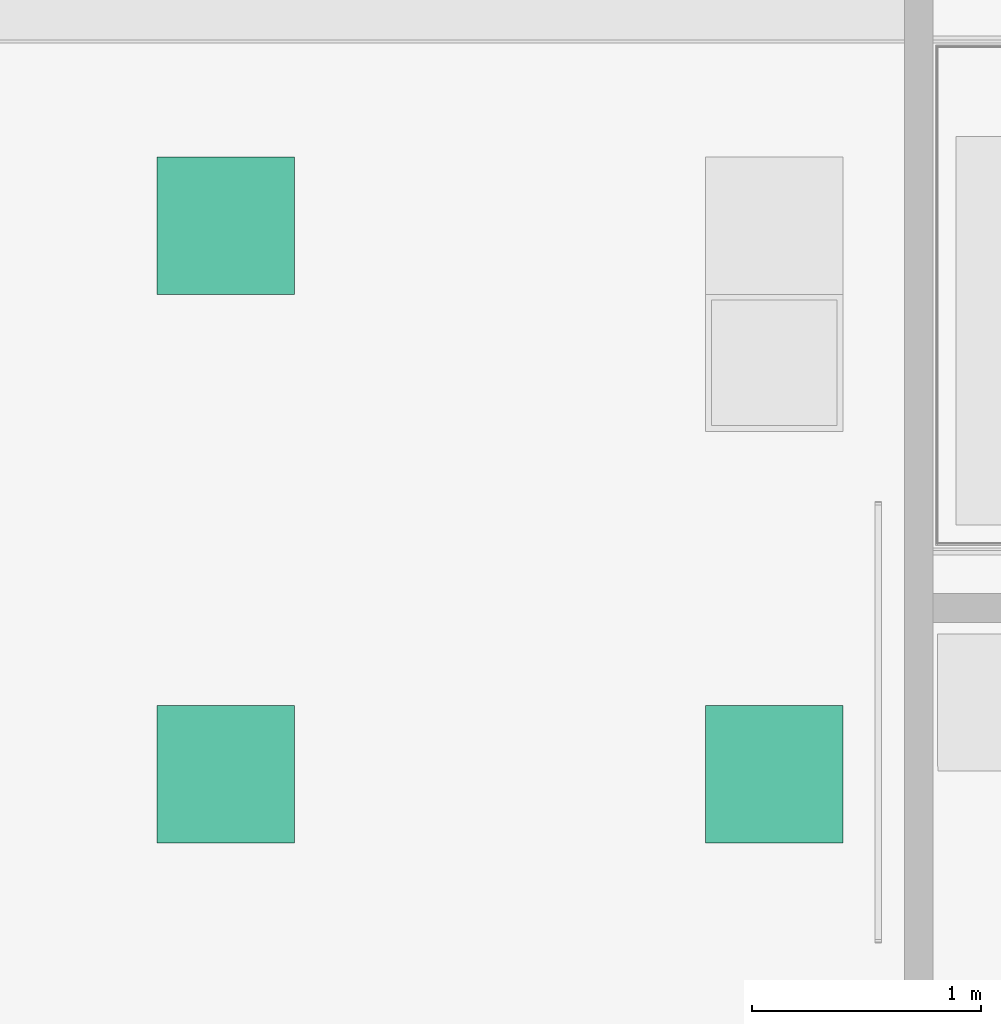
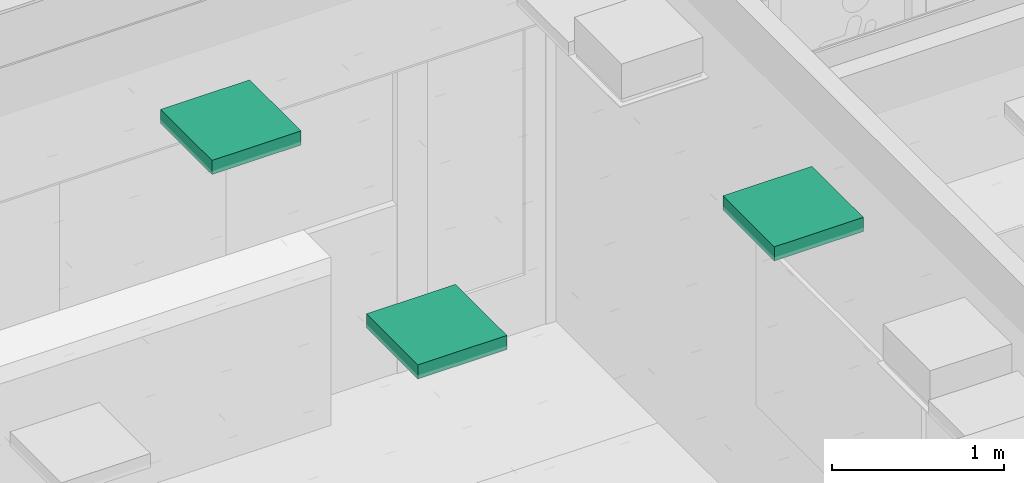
# One storey, part 201 of 347: 3 flow terminals.
"""IFC2X3 building model written with IfcOpenShell, lengths in millimetres."""

from ifc_helpers import new_model, entity, si_unit, converted_unit, derived_unit, money_unit, direction, frame, origin_with_axes, place, context, subcontext, project, spatial, open_shell, faceted_brep, surface_model, source, transform, mapped, type_object, type_shapes, element, save


model = new_model("IFC2X3")

# Units and contexts
model_context = context("Model", 3, precision=0.01, world=origin_with_axes(), true_north=direction((0.0, 1.0)))
plan_context = context("Plan", 3, precision=0.01, world=origin_with_axes(), true_north=direction((0.0, 1.0)))
body_context = subcontext(model_context, "Body", "Model", "MODEL_VIEW")
ifc_project = project(units=[si_unit("LENGTHUNIT", "METRE", prefix="MILLI"), si_unit("AREAUNIT", "SQUARE_METRE"), si_unit("VOLUMEUNIT", "CUBIC_METRE"), converted_unit("PLANEANGLEUNIT", "DEGREE", entity("IfcPlaneAngleMeasure", 0.0174532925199), si_unit("PLANEANGLEUNIT", "RADIAN"), dimensions=[0, 0, 0, 0, 0, 0, 0]), money_unit("EUR"), converted_unit("TIMEUNIT", "Year", entity("IfcTimeMeasure", 31556926.0), si_unit("TIMEUNIT", "SECOND"), dimensions=[0, 0, 1, 0, 0, 0, 0]), si_unit("MASSUNIT", "GRAM", prefix="KILO"), si_unit("THERMODYNAMICTEMPERATUREUNIT", "DEGREE_CELSIUS"), si_unit("LUMINOUSINTENSITYUNIT", "LUMEN"), si_unit("ENERGYUNIT", "JOULE", prefix="MEGA"), derived_unit("THERMALCONDUCTANCEUNIT", [(si_unit("POWERUNIT", "WATT"), 1), (si_unit("LENGTHUNIT", "METRE"), -1), (si_unit("THERMODYNAMICTEMPERATUREUNIT", "KELVIN"), -1)]), derived_unit("SPECIFICHEATCAPACITYUNIT", [(si_unit("ENERGYUNIT", "JOULE"), 1), (si_unit("MASSUNIT", "GRAM", prefix="KILO"), -1), (si_unit("THERMODYNAMICTEMPERATUREUNIT", "KELVIN"), -1)]), derived_unit("MASSDENSITYUNIT", [(si_unit("MASSUNIT", "GRAM", prefix="KILO"), 1), (si_unit("VOLUMEUNIT", "CUBIC_METRE"), -1)])], contexts=[model_context, plan_context])

# Site, building, storey
site_placement = place(None, origin_with_axes())
site = spatial("IfcSite", under=ifc_project, at=site_placement, Name="Site", CompositionType="ELEMENT")
building_placement = place(site_placement, origin_with_axes())
building = spatial("IfcBuilding", under=site, at=building_placement, Name="Naam gebouw", CompositionType="ELEMENT")
storey_placement = place(building_placement, origin_with_axes())
storey = spatial("IfcBuildingStorey", under=building, at=storey_placement, Name="begane grond", CompositionType="ELEMENT", Elevation=0.0)

# Flow terminals
lamp_type = type_object("IfcLampType", Name="TL plafond 25", PredefinedType="NOTDEFINED")
shared_shape = source(origin_with_axes(), body_context, "Body", "SurfaceModel", [
    faceted_brep([(0.0, 0.0, -100.0), (600.0, 0.0, -100.0), (600.0, 0.0, 0.0), (0.0, 0.0, 0.0), (0.0, 600.0, -100.0), (600.0, 600.0, -100.0), (40.0, 40.0, -100.0), (560.0, 40.0, -100.0), (560.0, 560.0, -100.0), (40.0, 560.0, -100.0), (600.0, 600.0, 0.0), (0.0, 600.0, 0.0), (40.0, 40.0, 0.0), (40.0, 560.0, 0.0), (560.0, 560.0, 0.0), (560.0, 40.0, 0.0)], [[[0, 1, 2, 3]], [[0, 4, 5, 1], [6, 7, 8, 9]], [[1, 5, 10, 2]], [[3, 2, 10, 11], [12, 13, 14, 15]], [[4, 0, 3, 11]], [[5, 4, 11, 10]], [[7, 6, 12, 15]], [[8, 7, 15, 14]], [[9, 8, 14, 13]], [[6, 9, 13, 12]]]),
    faceted_brep([(40.0, 40.0, -16.3333333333), (560.0, 40.0, -16.3333333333), (560.0, 40.0, 0.0), (40.0, 40.0, 0.0), (40.0, 560.0, -16.3333333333), (560.0, 560.0, -16.3333333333), (560.0, 560.0, 0.0), (40.0, 560.0, 0.0)], [[[0, 1, 2, 3]], [[0, 4, 5, 1]], [[1, 5, 6, 2]], [[3, 2, 6, 7]], [[4, 0, 3, 7]], [[5, 4, 7, 6]]]),
    surface_model("IfcShellBasedSurfaceModel", [(559.0, 41.0, -100.0), (40.0, 41.0, -100.0), (40.0, 559.0, -100.0), (559.0, 559.0, -100.0)], [open_shell([[[0, 1, 2, 3]]])]),
    faceted_brep([(40.0, 40.0, -100.0), (560.0, 40.0, -100.0), (560.0, 40.0, -60.0), (40.0, 40.0, -60.0), (40.0, 560.0, -100.0), (560.0, 560.0, -100.0), (41.0, 41.0, -100.0), (559.0, 41.0, -100.0), (559.0, 559.0, -100.0), (41.0, 559.0, -100.0), (560.0, 560.0, -60.0), (40.0, 560.0, -60.0), (41.0, 41.0, -60.0), (41.0, 559.0, -60.0), (559.0, 559.0, -60.0), (559.0, 41.0, -60.0)], [[[0, 1, 2, 3]], [[0, 4, 5, 1], [6, 7, 8, 9]], [[1, 5, 10, 2]], [[3, 2, 10, 11], [12, 13, 14, 15]], [[4, 0, 3, 11]], [[5, 4, 11, 10]], [[7, 6, 12, 15]], [[8, 7, 15, 14]], [[9, 8, 14, 13]], [[6, 9, 13, 12]]]),
    faceted_brep([(40.0, 144.0, -48.3333333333), (40.0, 149.740251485, -47.191526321), (560.0, 149.740251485, -47.191526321), (560.0, 144.0, -48.3333333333), (40.0, 138.259748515, -47.191526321), (40.0, 133.393398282, -43.9399350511), (40.0, 130.141807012, -39.0735848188), (40.0, 129.0, -33.3333333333), (40.0, 130.141807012, -27.5930818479), (40.0, 133.393398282, -22.7267316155), (40.0, 138.259748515, -19.4751403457), (40.0, 144.0, -18.3333333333), (40.0, 149.740251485, -19.4751403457), (40.0, 154.606601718, -22.7267316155), (40.0, 157.858192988, -27.5930818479), (40.0, 159.0, -33.3333333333), (40.0, 157.858192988, -39.0735848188), (40.0, 154.606601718, -43.9399350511), (40.0, 144.0, -46.3333333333), (40.0, 148.974884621, -45.343767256), (40.0, 153.192388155, -42.5257214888), (40.0, 156.010433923, -38.3082179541), (40.0, 157.0, -33.3333333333), (40.0, 156.010433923, -28.3584487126), (40.0, 153.192388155, -24.1409451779), (40.0, 148.974884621, -21.3228994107), (40.0, 144.0, -20.3333333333), (40.0, 139.025115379, -21.3228994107), (40.0, 134.807611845, -24.1409451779), (40.0, 131.989566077, -28.3584487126), (40.0, 131.0, -33.3333333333), (40.0, 131.989566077, -38.3082179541), (40.0, 134.807611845, -42.5257214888), (40.0, 139.025115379, -45.343767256), (560.0, 154.606601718, -43.9399350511), (560.0, 157.858192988, -39.0735848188), (560.0, 159.0, -33.3333333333), (560.0, 157.858192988, -27.5930818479), (560.0, 154.606601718, -22.7267316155), (560.0, 149.740251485, -19.4751403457), (560.0, 144.0, -18.3333333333), (560.0, 138.259748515, -19.4751403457), (560.0, 133.393398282, -22.7267316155), (560.0, 130.141807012, -27.5930818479), (560.0, 129.0, -33.3333333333), (560.0, 130.141807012, -39.0735848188), (560.0, 133.393398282, -43.9399350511), (560.0, 138.259748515, -47.191526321), (560.0, 144.0, -46.3333333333), (560.0, 139.025115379, -45.343767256), (560.0, 134.807611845, -42.5257214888), (560.0, 131.989566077, -38.3082179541), (560.0, 131.0, -33.3333333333), (560.0, 131.989566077, -28.3584487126), (560.0, 134.807611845, -24.1409451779), (560.0, 139.025115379, -21.3228994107), (560.0, 144.0, -20.3333333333), (560.0, 148.974884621, -21.3228994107), (560.0, 153.192388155, -24.1409451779), (560.0, 156.010433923, -28.3584487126), (560.0, 157.0, -33.3333333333), (560.0, 156.010433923, -38.3082179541), (560.0, 153.192388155, -42.5257214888), (560.0, 148.974884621, -45.343767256)], [[[0, 1, 2, 3]], [[0, 4, 5, 6, 7, 8, 9, 10, 11, 12, 13, 14, 15, 16, 17, 1], [18, 19, 20, 21, 22, 23, 24, 25, 26, 27, 28, 29, 30, 31, 32, 33]], [[1, 17, 34, 2]], [[3, 2, 34, 35, 36, 37, 38, 39, 40, 41, 42, 43, 44, 45, 46, 47], [48, 49, 50, 51, 52, 53, 54, 55, 56, 57, 58, 59, 60, 61, 62, 63]], [[4, 0, 3, 47]], [[5, 4, 47, 46]], [[6, 5, 46, 45]], [[7, 6, 45, 44]], [[8, 7, 44, 43]], [[9, 8, 43, 42]], [[10, 9, 42, 41]], [[11, 10, 41, 40]], [[12, 11, 40, 39]], [[13, 12, 39, 38]], [[14, 13, 38, 37]], [[15, 14, 37, 36]], [[16, 15, 36, 35]], [[17, 16, 35, 34]], [[19, 18, 48, 63]], [[20, 19, 63, 62]], [[21, 20, 62, 61]], [[22, 21, 61, 60]], [[23, 22, 60, 59]], [[24, 23, 59, 58]], [[25, 24, 58, 57]], [[26, 25, 57, 56]], [[27, 26, 56, 55]], [[28, 27, 55, 54]], [[29, 28, 54, 53]], [[30, 29, 53, 52]], [[31, 30, 52, 51]], [[32, 31, 51, 50]], [[33, 32, 50, 49]], [[18, 33, 49, 48]]]),
    faceted_brep([(40.0, 248.0, -48.3333333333), (40.0, 253.740251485, -47.191526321), (560.0, 253.740251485, -47.191526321), (560.0, 248.0, -48.3333333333), (40.0, 242.259748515, -47.191526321), (40.0, 237.393398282, -43.9399350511), (40.0, 234.141807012, -39.0735848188), (40.0, 233.0, -33.3333333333), (40.0, 234.141807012, -27.5930818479), (40.0, 237.393398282, -22.7267316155), (40.0, 242.259748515, -19.4751403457), (40.0, 248.0, -18.3333333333), (40.0, 253.740251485, -19.4751403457), (40.0, 258.606601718, -22.7267316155), (40.0, 261.858192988, -27.5930818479), (40.0, 263.0, -33.3333333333), (40.0, 261.858192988, -39.0735848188), (40.0, 258.606601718, -43.9399350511), (40.0, 248.0, -46.3333333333), (40.0, 252.974884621, -45.343767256), (40.0, 257.192388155, -42.5257214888), (40.0, 260.010433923, -38.3082179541), (40.0, 261.0, -33.3333333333), (40.0, 260.010433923, -28.3584487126), (40.0, 257.192388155, -24.1409451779), (40.0, 252.974884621, -21.3228994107), (40.0, 248.0, -20.3333333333), (40.0, 243.025115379, -21.3228994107), (40.0, 238.807611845, -24.1409451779), (40.0, 235.989566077, -28.3584487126), (40.0, 235.0, -33.3333333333), (40.0, 235.989566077, -38.3082179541), (40.0, 238.807611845, -42.5257214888), (40.0, 243.025115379, -45.343767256), (560.0, 258.606601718, -43.9399350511), (560.0, 261.858192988, -39.0735848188), (560.0, 263.0, -33.3333333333), (560.0, 261.858192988, -27.5930818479), (560.0, 258.606601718, -22.7267316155), (560.0, 253.740251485, -19.4751403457), (560.0, 248.0, -18.3333333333), (560.0, 242.259748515, -19.4751403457), (560.0, 237.393398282, -22.7267316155), (560.0, 234.141807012, -27.5930818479), (560.0, 233.0, -33.3333333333), (560.0, 234.141807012, -39.0735848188), (560.0, 237.393398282, -43.9399350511), (560.0, 242.259748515, -47.191526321), (560.0, 248.0, -46.3333333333), (560.0, 243.025115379, -45.343767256), (560.0, 238.807611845, -42.5257214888), (560.0, 235.989566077, -38.3082179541), (560.0, 235.0, -33.3333333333), (560.0, 235.989566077, -28.3584487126), (560.0, 238.807611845, -24.1409451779), (560.0, 243.025115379, -21.3228994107), (560.0, 248.0, -20.3333333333), (560.0, 252.974884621, -21.3228994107), (560.0, 257.192388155, -24.1409451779), (560.0, 260.010433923, -28.3584487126), (560.0, 261.0, -33.3333333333), (560.0, 260.010433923, -38.3082179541), (560.0, 257.192388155, -42.5257214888), (560.0, 252.974884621, -45.343767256)], [[[0, 1, 2, 3]], [[0, 4, 5, 6, 7, 8, 9, 10, 11, 12, 13, 14, 15, 16, 17, 1], [18, 19, 20, 21, 22, 23, 24, 25, 26, 27, 28, 29, 30, 31, 32, 33]], [[1, 17, 34, 2]], [[3, 2, 34, 35, 36, 37, 38, 39, 40, 41, 42, 43, 44, 45, 46, 47], [48, 49, 50, 51, 52, 53, 54, 55, 56, 57, 58, 59, 60, 61, 62, 63]], [[4, 0, 3, 47]], [[5, 4, 47, 46]], [[6, 5, 46, 45]], [[7, 6, 45, 44]], [[8, 7, 44, 43]], [[9, 8, 43, 42]], [[10, 9, 42, 41]], [[11, 10, 41, 40]], [[12, 11, 40, 39]], [[13, 12, 39, 38]], [[14, 13, 38, 37]], [[15, 14, 37, 36]], [[16, 15, 36, 35]], [[17, 16, 35, 34]], [[19, 18, 48, 63]], [[20, 19, 63, 62]], [[21, 20, 62, 61]], [[22, 21, 61, 60]], [[23, 22, 60, 59]], [[24, 23, 59, 58]], [[25, 24, 58, 57]], [[26, 25, 57, 56]], [[27, 26, 56, 55]], [[28, 27, 55, 54]], [[29, 28, 54, 53]], [[30, 29, 53, 52]], [[31, 30, 52, 51]], [[32, 31, 51, 50]], [[33, 32, 50, 49]], [[18, 33, 49, 48]]]),
    faceted_brep([(40.0, 352.0, -48.3333333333), (40.0, 357.740251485, -47.191526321), (560.0, 357.740251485, -47.191526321), (560.0, 352.0, -48.3333333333), (40.0, 346.259748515, -47.191526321), (40.0, 341.393398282, -43.9399350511), (40.0, 338.141807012, -39.0735848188), (40.0, 337.0, -33.3333333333), (40.0, 338.141807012, -27.5930818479), (40.0, 341.393398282, -22.7267316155), (40.0, 346.259748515, -19.4751403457), (40.0, 352.0, -18.3333333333), (40.0, 357.740251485, -19.4751403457), (40.0, 362.606601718, -22.7267316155), (40.0, 365.858192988, -27.5930818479), (40.0, 367.0, -33.3333333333), (40.0, 365.858192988, -39.0735848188), (40.0, 362.606601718, -43.9399350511), (40.0, 352.0, -46.3333333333), (40.0, 356.974884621, -45.343767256), (40.0, 361.192388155, -42.5257214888), (40.0, 364.010433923, -38.3082179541), (40.0, 365.0, -33.3333333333), (40.0, 364.010433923, -28.3584487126), (40.0, 361.192388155, -24.1409451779), (40.0, 356.974884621, -21.3228994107), (40.0, 352.0, -20.3333333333), (40.0, 347.025115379, -21.3228994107), (40.0, 342.807611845, -24.1409451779), (40.0, 339.989566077, -28.3584487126), (40.0, 339.0, -33.3333333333), (40.0, 339.989566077, -38.3082179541), (40.0, 342.807611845, -42.5257214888), (40.0, 347.025115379, -45.343767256), (560.0, 362.606601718, -43.9399350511), (560.0, 365.858192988, -39.0735848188), (560.0, 367.0, -33.3333333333), (560.0, 365.858192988, -27.5930818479), (560.0, 362.606601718, -22.7267316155), (560.0, 357.740251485, -19.4751403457), (560.0, 352.0, -18.3333333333), (560.0, 346.259748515, -19.4751403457), (560.0, 341.393398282, -22.7267316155), (560.0, 338.141807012, -27.5930818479), (560.0, 337.0, -33.3333333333), (560.0, 338.141807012, -39.0735848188), (560.0, 341.393398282, -43.9399350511), (560.0, 346.259748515, -47.191526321), (560.0, 352.0, -46.3333333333), (560.0, 347.025115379, -45.343767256), (560.0, 342.807611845, -42.5257214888), (560.0, 339.989566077, -38.3082179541), (560.0, 339.0, -33.3333333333), (560.0, 339.989566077, -28.3584487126), (560.0, 342.807611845, -24.1409451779), (560.0, 347.025115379, -21.3228994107), (560.0, 352.0, -20.3333333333), (560.0, 356.974884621, -21.3228994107), (560.0, 361.192388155, -24.1409451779), (560.0, 364.010433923, -28.3584487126), (560.0, 365.0, -33.3333333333), (560.0, 364.010433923, -38.3082179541), (560.0, 361.192388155, -42.5257214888), (560.0, 356.974884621, -45.343767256)], [[[0, 1, 2, 3]], [[0, 4, 5, 6, 7, 8, 9, 10, 11, 12, 13, 14, 15, 16, 17, 1], [18, 19, 20, 21, 22, 23, 24, 25, 26, 27, 28, 29, 30, 31, 32, 33]], [[1, 17, 34, 2]], [[3, 2, 34, 35, 36, 37, 38, 39, 40, 41, 42, 43, 44, 45, 46, 47], [48, 49, 50, 51, 52, 53, 54, 55, 56, 57, 58, 59, 60, 61, 62, 63]], [[4, 0, 3, 47]], [[5, 4, 47, 46]], [[6, 5, 46, 45]], [[7, 6, 45, 44]], [[8, 7, 44, 43]], [[9, 8, 43, 42]], [[10, 9, 42, 41]], [[11, 10, 41, 40]], [[12, 11, 40, 39]], [[13, 12, 39, 38]], [[14, 13, 38, 37]], [[15, 14, 37, 36]], [[16, 15, 36, 35]], [[17, 16, 35, 34]], [[19, 18, 48, 63]], [[20, 19, 63, 62]], [[21, 20, 62, 61]], [[22, 21, 61, 60]], [[23, 22, 60, 59]], [[24, 23, 59, 58]], [[25, 24, 58, 57]], [[26, 25, 57, 56]], [[27, 26, 56, 55]], [[28, 27, 55, 54]], [[29, 28, 54, 53]], [[30, 29, 53, 52]], [[31, 30, 52, 51]], [[32, 31, 51, 50]], [[33, 32, 50, 49]], [[18, 33, 49, 48]]]),
    faceted_brep([(40.0, 456.0, -48.3333333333), (40.0, 461.740251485, -47.191526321), (560.0, 461.740251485, -47.191526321), (560.0, 456.0, -48.3333333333), (40.0, 450.259748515, -47.191526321), (40.0, 445.393398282, -43.9399350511), (40.0, 442.141807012, -39.0735848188), (40.0, 441.0, -33.3333333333), (40.0, 442.141807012, -27.5930818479), (40.0, 445.393398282, -22.7267316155), (40.0, 450.259748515, -19.4751403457), (40.0, 456.0, -18.3333333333), (40.0, 461.740251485, -19.4751403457), (40.0, 466.606601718, -22.7267316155), (40.0, 469.858192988, -27.5930818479), (40.0, 471.0, -33.3333333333), (40.0, 469.858192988, -39.0735848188), (40.0, 466.606601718, -43.9399350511), (40.0, 456.0, -46.3333333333), (40.0, 460.974884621, -45.343767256), (40.0, 465.192388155, -42.5257214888), (40.0, 468.010433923, -38.3082179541), (40.0, 469.0, -33.3333333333), (40.0, 468.010433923, -28.3584487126), (40.0, 465.192388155, -24.1409451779), (40.0, 460.974884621, -21.3228994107), (40.0, 456.0, -20.3333333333), (40.0, 451.025115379, -21.3228994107), (40.0, 446.807611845, -24.1409451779), (40.0, 443.989566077, -28.3584487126), (40.0, 443.0, -33.3333333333), (40.0, 443.989566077, -38.3082179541), (40.0, 446.807611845, -42.5257214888), (40.0, 451.025115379, -45.343767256), (560.0, 466.606601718, -43.9399350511), (560.0, 469.858192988, -39.0735848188), (560.0, 471.0, -33.3333333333), (560.0, 469.858192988, -27.5930818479), (560.0, 466.606601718, -22.7267316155), (560.0, 461.740251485, -19.4751403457), (560.0, 456.0, -18.3333333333), (560.0, 450.259748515, -19.4751403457), (560.0, 445.393398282, -22.7267316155), (560.0, 442.141807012, -27.5930818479), (560.0, 441.0, -33.3333333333), (560.0, 442.141807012, -39.0735848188), (560.0, 445.393398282, -43.9399350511), (560.0, 450.259748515, -47.191526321), (560.0, 456.0, -46.3333333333), (560.0, 451.025115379, -45.343767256), (560.0, 446.807611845, -42.5257214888), (560.0, 443.989566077, -38.3082179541), (560.0, 443.0, -33.3333333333), (560.0, 443.989566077, -28.3584487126), (560.0, 446.807611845, -24.1409451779), (560.0, 451.025115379, -21.3228994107), (560.0, 456.0, -20.3333333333), (560.0, 460.974884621, -21.3228994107), (560.0, 465.192388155, -24.1409451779), (560.0, 468.010433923, -28.3584487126), (560.0, 469.0, -33.3333333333), (560.0, 468.010433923, -38.3082179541), (560.0, 465.192388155, -42.5257214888), (560.0, 460.974884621, -45.343767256)], [[[0, 1, 2, 3]], [[0, 4, 5, 6, 7, 8, 9, 10, 11, 12, 13, 14, 15, 16, 17, 1], [18, 19, 20, 21, 22, 23, 24, 25, 26, 27, 28, 29, 30, 31, 32, 33]], [[1, 17, 34, 2]], [[3, 2, 34, 35, 36, 37, 38, 39, 40, 41, 42, 43, 44, 45, 46, 47], [48, 49, 50, 51, 52, 53, 54, 55, 56, 57, 58, 59, 60, 61, 62, 63]], [[4, 0, 3, 47]], [[5, 4, 47, 46]], [[6, 5, 46, 45]], [[7, 6, 45, 44]], [[8, 7, 44, 43]], [[9, 8, 43, 42]], [[10, 9, 42, 41]], [[11, 10, 41, 40]], [[12, 11, 40, 39]], [[13, 12, 39, 38]], [[14, 13, 38, 37]], [[15, 14, 37, 36]], [[16, 15, 36, 35]], [[17, 16, 35, 34]], [[19, 18, 48, 63]], [[20, 19, 63, 62]], [[21, 20, 62, 61]], [[22, 21, 61, 60]], [[23, 22, 60, 59]], [[24, 23, 59, 58]], [[25, 24, 58, 57]], [[26, 25, 57, 56]], [[27, 26, 56, 55]], [[28, 27, 55, 54]], [[29, 28, 54, 53]], [[30, 29, 53, 52]], [[31, 30, 52, 51]], [[32, 31, 51, 50]], [[33, 32, 50, 49]], [[18, 33, 49, 48]]]),
])
type_shapes(lamp_type, [shared_shape])
for number, where, z_axis, x_axis, name in (
    (1, (20905.0, 7999.99997201, 3295.0), (0.0, 0.0, 1.0), (1.0, 0.0, 0.0), "63_Lamp-x"),
    (2, (20905.0, 10399.999972, 3295.0), (0.0, 0.0, 1.0), (1.0, 0.0, 0.0), "63_Lamp-x"),
    (3, (23305.0, 7999.99997201, 3295.0), (0.0, 0.0, 1.0), (1.0, 0.0, 0.0), "63_Lamp-x"),
):
    element("IfcFlowTerminal", number, at=place(storey_placement, frame(where, z_axis=z_axis, x_axis=x_axis)), inside=storey, type_object=lamp_type, Name=name, ObjectType="Lamp", context=body_context, shape_type="MappedRepresentation", body=[
        mapped(shared_shape, transform((0.0, 0.0, 0.0))),
    ])

save(model, "model.ifc")
